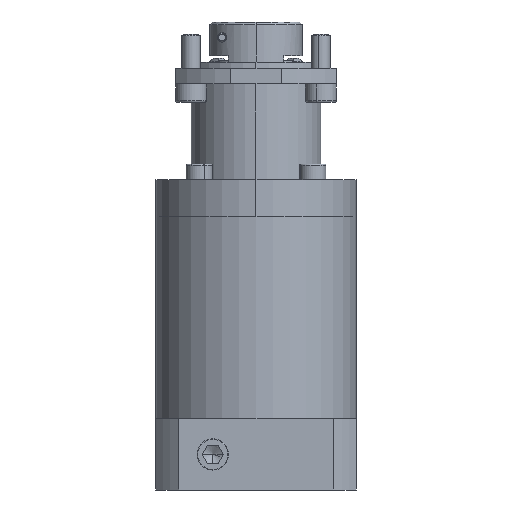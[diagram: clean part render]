
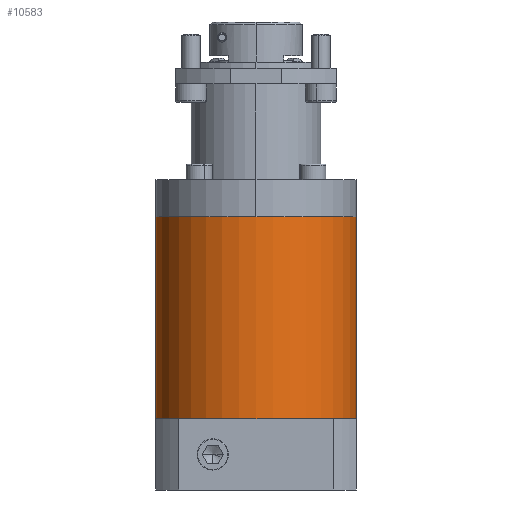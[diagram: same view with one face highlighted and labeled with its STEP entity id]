
A CAD part, front view. The second image highlights one B-rep face of the part: STEP entity #10583.
In plain terms, the highlighted cylindrical face has radius 32.5 mm (diameter 65 mm), a partial arc.
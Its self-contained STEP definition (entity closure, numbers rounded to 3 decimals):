
#236 = CYLINDRICAL_SURFACE ( 'NONE', #4190, 32.5 ) ;
#694 = DIRECTION ( 'NONE',  ( 0., 0., -1. ) ) ;
#844 = AXIS2_PLACEMENT_3D ( 'NONE', #14331, #6571, #15578 ) ;
#1435 = CARTESIAN_POINT ( 'NONE',  ( -32.5, 0., -123.25 ) ) ;
#1946 = VERTEX_POINT ( 'NONE', #7166 ) ;
#3763 = EDGE_CURVE ( 'NONE', #13551, #4693, #4534, .T. ) ;
#3868 = CARTESIAN_POINT ( 'NONE',  ( 32.5, 0., -123.25 ) ) ;
#4190 = AXIS2_PLACEMENT_3D ( 'NONE', #11122, #694, #8566 ) ;
#4333 = VERTEX_POINT ( 'NONE', #16692 ) ;
#4416 = ORIENTED_EDGE ( 'NONE', *, *, #15462, .T. ) ;
#4534 = CIRCLE ( 'NONE', #12661, 32.5 ) ;
#4693 = VERTEX_POINT ( 'NONE', #8394 ) ;
#5012 = CARTESIAN_POINT ( 'NONE',  ( 0., 0., -90.5 ) ) ;
#5194 = DIRECTION ( 'NONE',  ( 0., 0., 1. ) ) ;
#5288 = VECTOR ( 'NONE', #5398, 1000. ) ;
#5398 = DIRECTION ( 'NONE',  ( 0., 0., -1. ) ) ;
#6348 = DIRECTION ( 'NONE',  ( 0., 1., 0. ) ) ;
#6571 = DIRECTION ( 'NONE',  ( 0., 0., 1. ) ) ;
#6647 = EDGE_LOOP ( 'NONE', ( #4416, #10678, #8927, #11621, #11011 ) ) ;
#7166 = CARTESIAN_POINT ( 'NONE',  ( 32.5, 0., -90.5 ) ) ;
#7183 = DIRECTION ( 'NONE',  ( 0., 0., 1. ) ) ;
#7944 = CIRCLE ( 'NONE', #844, 32.5 ) ;
#8261 = EDGE_CURVE ( 'NONE', #1946, #12217, #10423, .T. ) ;
#8394 = CARTESIAN_POINT ( 'NONE',  ( 32.5, 0., -156. ) ) ;
#8566 = DIRECTION ( 'NONE',  ( 0., 1., 0. ) ) ;
#8781 = LINE ( 'NONE', #1435, #5288 ) ;
#8927 = ORIENTED_EDGE ( 'NONE', *, *, #11309, .T. ) ;
#9054 = VECTOR ( 'NONE', #5194, 1000. ) ;
#10423 = CIRCLE ( 'NONE', #11072, 32.5 ) ;
#10583 = ADVANCED_FACE ( 'NONE', ( #10707 ), #236, .T. ) ;
#10678 = ORIENTED_EDGE ( 'NONE', *, *, #3763, .T. ) ;
#10707 = FACE_OUTER_BOUND ( 'NONE', #6647, .T. ) ;
#10828 = CARTESIAN_POINT ( 'NONE',  ( 0., -32.5, -156. ) ) ;
#11011 = ORIENTED_EDGE ( 'NONE', *, *, #13457, .T. ) ;
#11072 = AXIS2_PLACEMENT_3D ( 'NONE', #5012, #14108, #6348 ) ;
#11122 = CARTESIAN_POINT ( 'NONE',  ( 0., 0., -123.25 ) ) ;
#11309 = EDGE_CURVE ( 'NONE', #4693, #1946, #15465, .T. ) ;
#11621 = ORIENTED_EDGE ( 'NONE', *, *, #8261, .T. ) ;
#12217 = VERTEX_POINT ( 'NONE', #16031 ) ;
#12661 = AXIS2_PLACEMENT_3D ( 'NONE', #14919, #7183, #16152 ) ;
#13457 = EDGE_CURVE ( 'NONE', #12217, #4333, #8781, .T. ) ;
#13551 = VERTEX_POINT ( 'NONE', #10828 ) ;
#14108 = DIRECTION ( 'NONE',  ( 0., 0., -1. ) ) ;
#14331 = CARTESIAN_POINT ( 'NONE',  ( 0., 0., -156. ) ) ;
#14919 = CARTESIAN_POINT ( 'NONE',  ( 0., 0., -156. ) ) ;
#15462 = EDGE_CURVE ( 'NONE', #4333, #13551, #7944, .T. ) ;
#15465 = LINE ( 'NONE', #3868, #9054 ) ;
#15578 = DIRECTION ( 'NONE',  ( 0., 1., 0. ) ) ;
#16031 = CARTESIAN_POINT ( 'NONE',  ( -32.5, 0., -90.5 ) ) ;
#16152 = DIRECTION ( 'NONE',  ( 0., 1., 0. ) ) ;
#16692 = CARTESIAN_POINT ( 'NONE',  ( -32.5, 0., -156. ) ) ;
